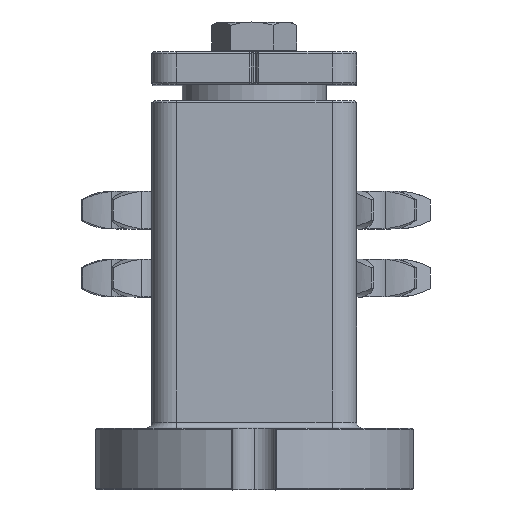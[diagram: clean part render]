
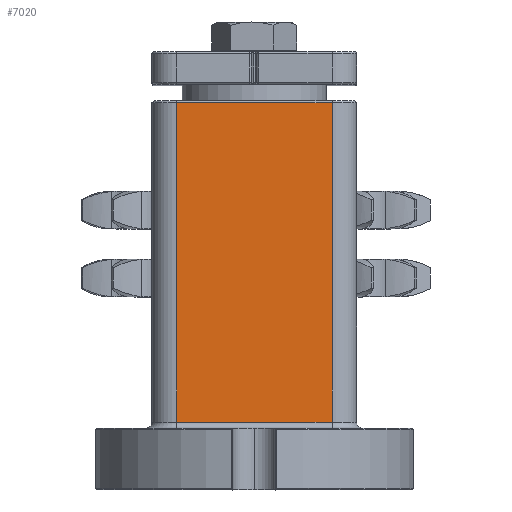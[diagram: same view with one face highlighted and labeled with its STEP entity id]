
A CAD part, top view. The second image highlights one B-rep face of the part: STEP entity #7020.
In plain terms, the highlighted planar face has unit normal (0, 0, 1).
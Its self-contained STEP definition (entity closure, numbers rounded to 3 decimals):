
#295 = CARTESIAN_POINT ( 'NONE',  ( -19., 95., 25. ) ) ;
#416 = EDGE_LOOP ( 'NONE', ( #2301, #7520, #2076, #5960 ) ) ;
#422 = VECTOR ( 'NONE', #6541, 1000. ) ;
#608 = DIRECTION ( 'NONE',  ( -1., 0., 0. ) ) ;
#834 = CARTESIAN_POINT ( 'NONE',  ( 19., 95., 25. ) ) ;
#1114 = DIRECTION ( 'NONE',  ( -1., 0., 0. ) ) ;
#1367 = CARTESIAN_POINT ( 'NONE',  ( -19., 16.5, 25. ) ) ;
#1503 = LINE ( 'NONE', #834, #422 ) ;
#2076 = ORIENTED_EDGE ( 'NONE', *, *, #8988, .F. ) ;
#2301 = ORIENTED_EDGE ( 'NONE', *, *, #9728, .T. ) ;
#2624 = VERTEX_POINT ( 'NONE', #3124 ) ;
#3124 = CARTESIAN_POINT ( 'NONE',  ( 19., 16.5, 25. ) ) ;
#5591 = VECTOR ( 'NONE', #608, 1000. ) ;
#5821 = EDGE_CURVE ( 'NONE', #5976, #6552, #6521, .T. ) ;
#5960 = ORIENTED_EDGE ( 'NONE', *, *, #5821, .T. ) ;
#5976 = VERTEX_POINT ( 'NONE', #7038 ) ;
#6048 = DIRECTION ( 'NONE',  ( 0., 0., -1. ) ) ;
#6521 = LINE ( 'NONE', #6525, #5591 ) ;
#6525 = CARTESIAN_POINT ( 'NONE',  ( -19., 94.5, 25. ) ) ;
#6541 = DIRECTION ( 'NONE',  ( 0., -1., 0. ) ) ;
#6552 = VERTEX_POINT ( 'NONE', #10257 ) ;
#6588 = VECTOR ( 'NONE', #8161, 1000. ) ;
#7005 = CARTESIAN_POINT ( 'NONE',  ( -19., 95., 25. ) ) ;
#7020 = ADVANCED_FACE ( 'NONE', ( #7399 ), #11061, .F. ) ;
#7038 = CARTESIAN_POINT ( 'NONE',  ( 19., 94.5, 25. ) ) ;
#7122 = DIRECTION ( 'NONE',  ( 0., -1., 0. ) ) ;
#7399 = FACE_OUTER_BOUND ( 'NONE', #416, .T. ) ;
#7520 = ORIENTED_EDGE ( 'NONE', *, *, #9893, .T. ) ;
#8161 = DIRECTION ( 'NONE',  ( 1., 0., 0. ) ) ;
#8988 = EDGE_CURVE ( 'NONE', #5976, #2624, #1503, .T. ) ;
#9728 = EDGE_CURVE ( 'NONE', #6552, #11932, #12247, .T. ) ;
#9893 = EDGE_CURVE ( 'NONE', #11932, #2624, #10565, .T. ) ;
#10092 = VECTOR ( 'NONE', #7122, 1000. ) ;
#10257 = CARTESIAN_POINT ( 'NONE',  ( -19., 94.5, 25. ) ) ;
#10565 = LINE ( 'NONE', #1367, #6588 ) ;
#11061 = PLANE ( 'NONE',  #11465 ) ;
#11465 = AXIS2_PLACEMENT_3D ( 'NONE', #295, #6048, #1114 ) ;
#11932 = VERTEX_POINT ( 'NONE', #12523 ) ;
#12247 = LINE ( 'NONE', #7005, #10092 ) ;
#12523 = CARTESIAN_POINT ( 'NONE',  ( -19., 16.5, 25. ) ) ;
